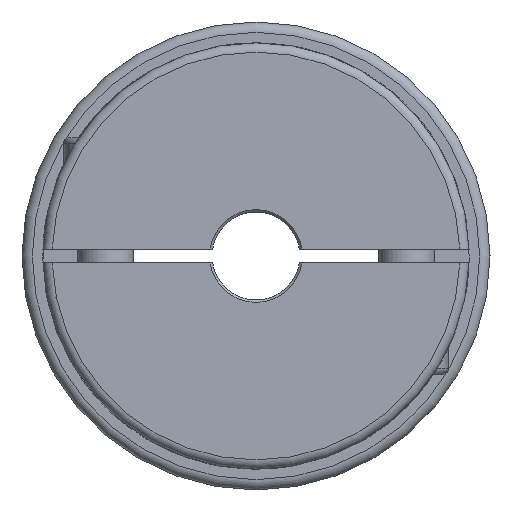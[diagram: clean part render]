
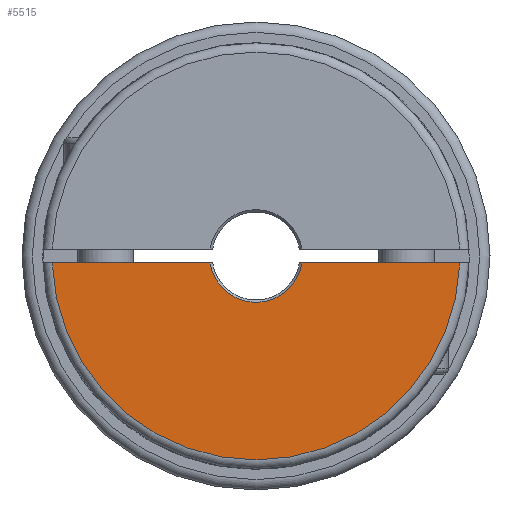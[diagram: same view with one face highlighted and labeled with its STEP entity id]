
A CAD part, left-side view. The second image highlights one B-rep face of the part: STEP entity #5515.
In plain terms, the highlighted planar face has unit normal (-1, 0, 0).
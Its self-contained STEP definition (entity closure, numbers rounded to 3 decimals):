
#136=LINE('',#8010,#288);
#145=LINE('',#8035,#297);
#288=VECTOR('',#6481,1000.);
#297=VECTOR('',#6494,1000.);
#442=PLANE('',#5867);
#767=ORIENTED_EDGE('',*,*,#1600,.F.);
#768=ORIENTED_EDGE('',*,*,#1527,.F.);
#769=ORIENTED_EDGE('',*,*,#1589,.T.);
#770=ORIENTED_EDGE('',*,*,#1615,.T.);
#1527=EDGE_CURVE('',#1984,#1986,#2330,.T.);
#1589=EDGE_CURVE('',#1984,#2035,#136,.T.);
#1600=EDGE_CURVE('',#1986,#2039,#145,.T.);
#1615=EDGE_CURVE('',#2035,#2039,#2373,.T.);
#1984=VERTEX_POINT('',#7572);
#1986=VERTEX_POINT('',#7575);
#2035=VERTEX_POINT('',#8011);
#2039=VERTEX_POINT('',#8036);
#2330=CIRCLE('',#5782,10.);
#2373=CIRCLE('',#5855,44.);
#2644=EDGE_LOOP('',(#767,#768,#769,#770));
#3092=FACE_BOUND('',#2644,.T.);
#5515=ADVANCED_FACE('',(#3092),#442,.T.);
#5782=AXIS2_PLACEMENT_3D('',#7574,#6355,#6356);
#5855=AXIS2_PLACEMENT_3D('',#8074,#6525,#6526);
#5867=AXIS2_PLACEMENT_3D('',#8086,#6549,#6550);
#6355=DIRECTION('',(-1.,0.,0.));
#6356=DIRECTION('',(0.,-1.,0.));
#6481=DIRECTION('',(0.,1.,0.));
#6494=DIRECTION('',(0.,-1.,0.));
#6525=DIRECTION('',(-1.,0.,0.));
#6526=DIRECTION('',(0.,-1.,0.));
#6549=DIRECTION('',(-1.,0.,0.));
#6550=DIRECTION('',(0.,-1.,0.));
#7572=CARTESIAN_POINT('',(-30.282,9.887,-1.5));
#7574=CARTESIAN_POINT('',(-30.282,0.,0.));
#7575=CARTESIAN_POINT('',(-30.282,-9.887,-1.5));
#8010=CARTESIAN_POINT('',(-30.282,-46.,-1.5));
#8011=CARTESIAN_POINT('',(-30.282,43.974,-1.5));
#8035=CARTESIAN_POINT('',(-30.282,-46.,-1.5));
#8036=CARTESIAN_POINT('',(-30.282,-43.974,-1.5));
#8074=CARTESIAN_POINT('',(-30.282,0.,0.));
#8086=CARTESIAN_POINT('',(-30.282,-46.,0.));
